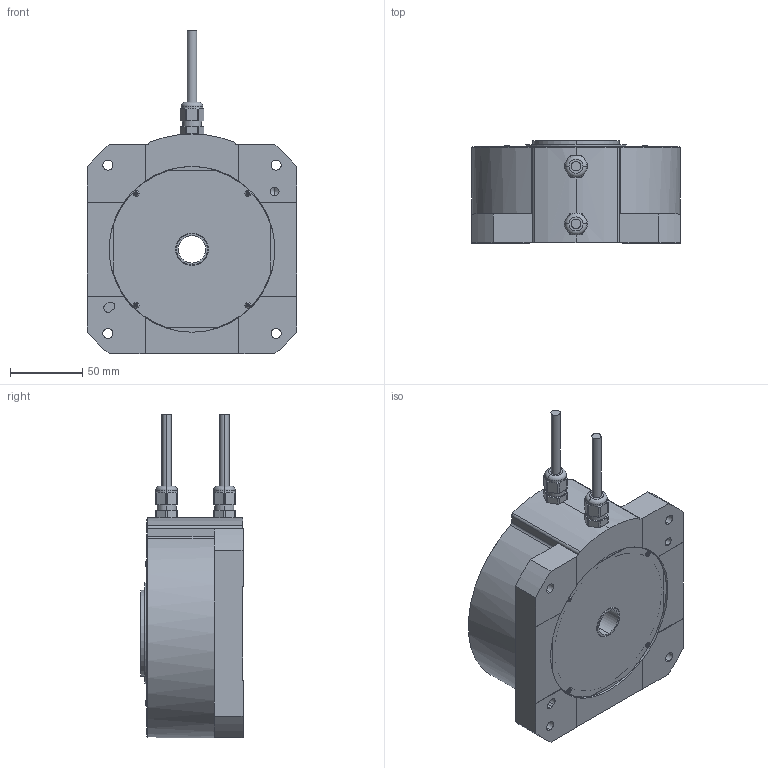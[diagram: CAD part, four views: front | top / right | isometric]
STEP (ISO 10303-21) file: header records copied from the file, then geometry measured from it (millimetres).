
FILE_DESCRIPTION (( 'STEP AP214' ), '1' );
FILE_NAME ('ND140-65-FSP(ABS).step', '2024-03-26T00:54:35', ( '' ), ( '' ), 'SwSTEP 2.0', 'SolidWorks 2023', '' );
FILE_SCHEMA (( 'AUTOMOTIVE_DESIGN' ));
Length unit declared in the file: millimetre
Products named in the file (1): ND140-65-FSP(ABS)
Bounding box: 145 x 70.8 x 224.5 mm (x, y, z)
Volume: 454225.1 mm3; surface area: 158780.5 mm2
Topology: 14 solids, 14 shells, 634 faces, 1691 edges, 1084 vertices
Faces by surface type: cylinder 252, plane 188, cone 95, bspline 69, torus 30
Entity records: 23112 total; most frequent: CARTESIAN_POINT 7776, ORIENTED_EDGE 3270, DIRECTION 2990, EDGE_CURVE 1635, AXIS2_PLACEMENT_3D 1180, VERTEX_POINT 1084, EDGE_LOOP 725, ADVANCED_FACE 634
